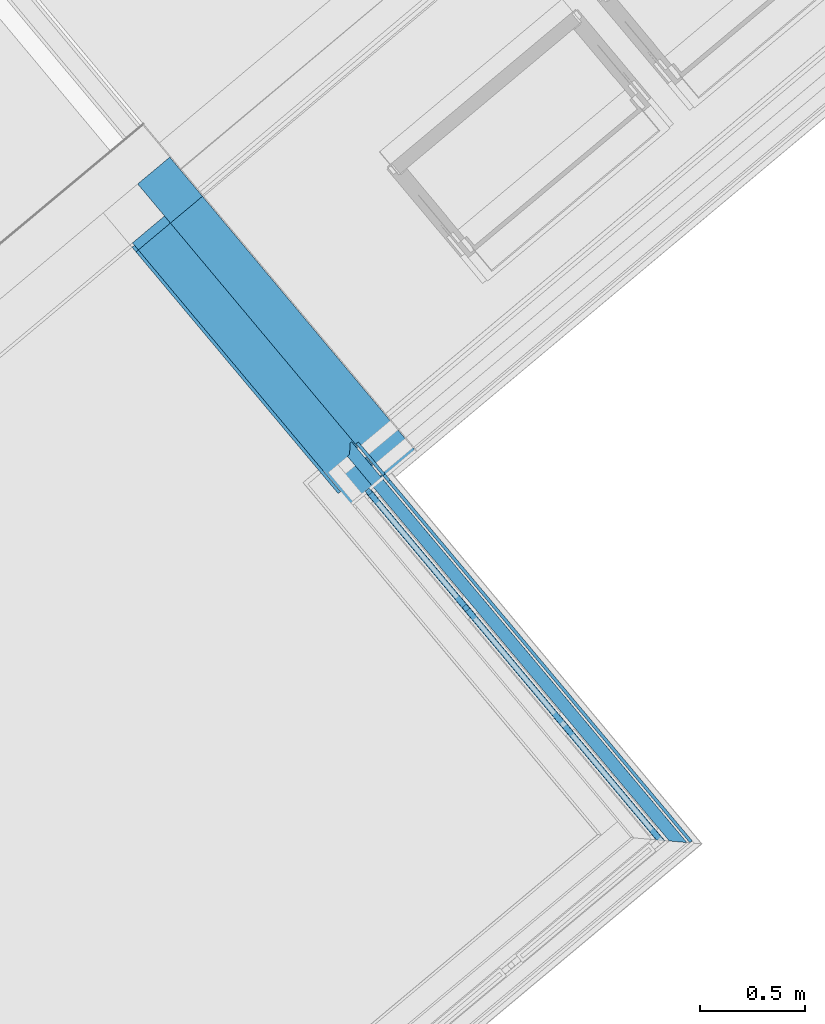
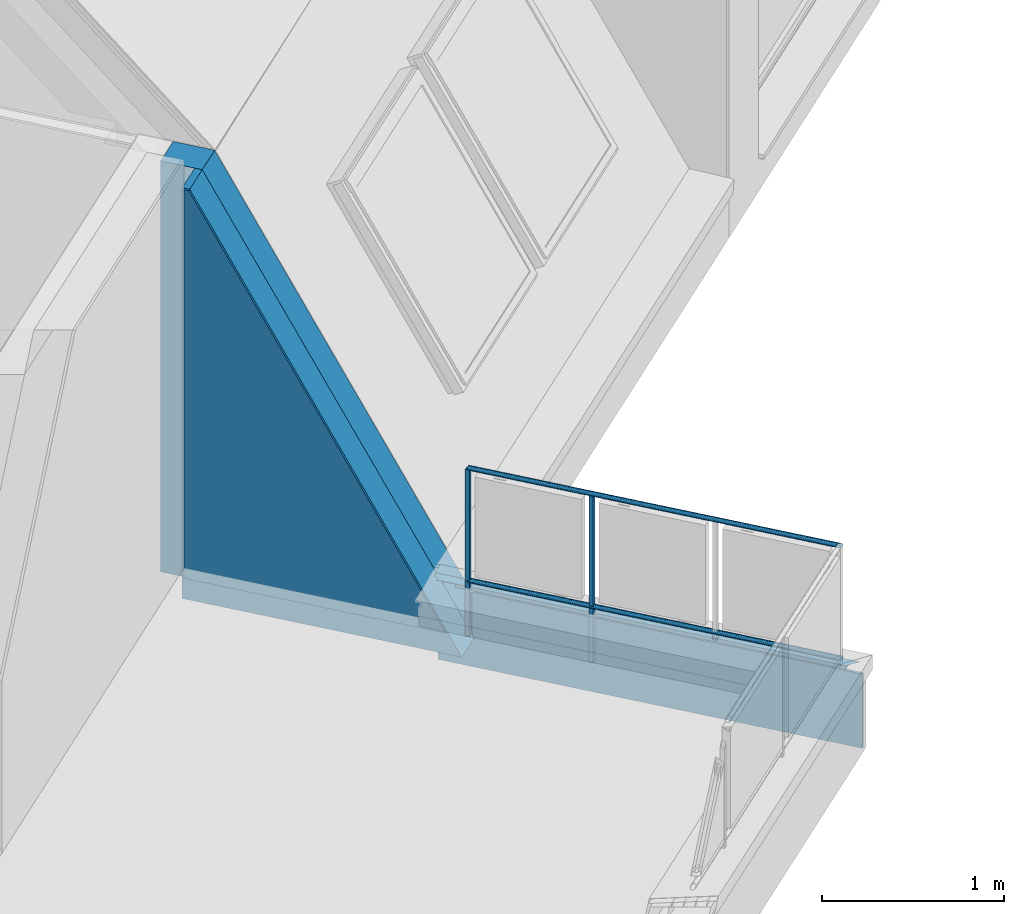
# One storey, part 23 of 61: 9 building element parts, 3 elements without a shape of their own.
"""IFC4 building model written with IfcOpenShell, lengths in metres."""

from ifc_helpers import new_model, entity, si_unit, converted_unit, derived_unit, direction, frame, origin_with_axes, place, context, subcontext, project, spatial, polygons, material, type_object, element, aggregate, save


model = new_model("IFC4")

# Units and contexts
model_context = context("Model", 3, precision=1e-05, world=origin_with_axes(), true_north=direction((0.0, 1.0)))
body_context = subcontext(model_context, "Body", "Model", "MODEL_VIEW")
ifc_project = project(units=[si_unit("LENGTHUNIT", "METRE"), si_unit("AREAUNIT", "SQUARE_METRE"), si_unit("VOLUMEUNIT", "CUBIC_METRE"), converted_unit("PLANEANGLEUNIT", "DEGREE", entity("IfcPlaneAngleMeasure", 0.0174532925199), si_unit("PLANEANGLEUNIT", "RADIAN"), dimensions=[0, 0, 0, 0, 0, 0, 0]), converted_unit("TIMEUNIT", "Year", entity("IfcTimeMeasure", 31556926.0), si_unit("TIMEUNIT", "SECOND"), dimensions=[0, 0, 1, 0, 0, 0, 0]), si_unit("MASSUNIT", "GRAM", prefix="KILO"), si_unit("THERMODYNAMICTEMPERATUREUNIT", "DEGREE_CELSIUS"), si_unit("LUMINOUSINTENSITYUNIT", "LUMEN"), si_unit("ENERGYUNIT", "JOULE", prefix="MEGA"), derived_unit("THERMALCONDUCTANCEUNIT", [(si_unit("POWERUNIT", "WATT"), 1), (si_unit("LENGTHUNIT", "METRE"), -1), (si_unit("THERMODYNAMICTEMPERATUREUNIT", "KELVIN"), -1)]), derived_unit("SPECIFICHEATCAPACITYUNIT", [(si_unit("ENERGYUNIT", "JOULE"), 1), (si_unit("MASSUNIT", "GRAM", prefix="KILO"), -1), (si_unit("THERMODYNAMICTEMPERATUREUNIT", "KELVIN"), -1)]), derived_unit("MASSDENSITYUNIT", [(si_unit("MASSUNIT", "GRAM", prefix="KILO"), 1), (si_unit("VOLUMEUNIT", "CUBIC_METRE"), -1)])], contexts=[model_context])

# Site, building, storey, space
site_placement = place(None, frame((-0.00153261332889, -0.00661245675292, 0.0), z_axis=(0.0, 0.0, 1.0), x_axis=(1.0, 0.0, 0.0)))
site = spatial("IfcSite", under=ifc_project, at=site_placement, Name="Gelände", CompositionType="ELEMENT")
building_placement = place(site_placement, origin_with_axes())
building = spatial("IfcBuilding", under=site, at=building_placement, Name="Gebäude", CompositionType="ELEMENT")
storey_placement = place(building_placement, frame((0.0, 0.0, 5.7), z_axis=(0.0, 0.0, 1.0), x_axis=(1.0, 0.0, 0.0)))
storey = spatial("IfcBuildingStorey", under=building, at=storey_placement, Name="DG1", CompositionType="ELEMENT", Elevation=5.7)
space_1_placement = place(storey_placement, frame((2.49953312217, 17.9744361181, 0.22), z_axis=(0.0, 0.0, 1.0), x_axis=(0.641209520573, -0.767365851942, 0.0)))
space_1 = spatial("IfcSpace", under=storey, at=space_1_placement, CompositionType="ELEMENT", PredefinedType="NOTDEFINED")

# Wall, building element parts
wall_type_1 = type_object("IfcWallType", Name="AW EG 420", PredefinedType="NOTDEFINED")
wall_1_placement = place(space_1_placement, frame((3.60353912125, -0.404634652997, -0.22), z_axis=(0.0, 0.0, 1.0), x_axis=(0.999999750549, 0.000706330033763, 0.0)))
wall_1 = element("IfcWall", 1, at=wall_1_placement, inside=space_1, type_object=wall_type_1, Name="Wand-002", PredefinedType="NOTDEFINED")
ifc_material_1 = material(Name="Stahlbeton Wand")
building_element_part_1_placement = place(wall_1_placement, origin_with_axes())
building_element_part_1 = element("IfcBuildingElementPart", 2, at=building_element_part_1_placement, material=ifc_material_1, Name="Stahlbeton Wand", PredefinedType="NOTDEFINED", context=body_context, shape_type="Tessellation", body=[
    polygons([(-0.214988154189, 0.215, 0.0), (-0.214988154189, 0.215, 2.76), (-0.214977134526, 0.415, 2.76), (-0.214977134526, 0.415, 2.57275084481), (-0.214988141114, 0.215237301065, 2.57276350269), (-0.214988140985, 0.215239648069, 2.36264000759), (-0.214977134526, 0.415, 2.36267415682), (-0.214977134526, 0.415, 0.0), (1.62250990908, 0.215, 0.0), (0.0290231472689, 0.215, 2.76), (0.0290539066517, 0.415, 2.76), (1.6225414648, 0.415, 0.0), (1.38005355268, 0.415, 0.0), (-0.138988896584, 0.415, 2.63105866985), (-0.13901863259, 0.215225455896, 2.63105695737), (1.38002279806, 0.215031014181, 0.0), (1.14908269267, 0.215065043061, 0.0), (1.14911344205, 0.415, 0.0)], [[[1, 2, 3, 4, 5, 6, 7, 8]], [[2, 1, 9, 10]], [[3, 2, 10, 11]], [[4, 3, 11, 12, 13, 14]], [[15, 5, 4, 14]], [[5, 15, 16, 17, 6]], [[6, 17, 18, 7]], [[18, 8, 7]], [[1, 8, 18, 17, 16, 13, 12, 9]], [[11, 10, 9, 12]], [[16, 15, 14, 13]]], closed=True),
])
ifc_material_2 = material(Name="EPS 1")
building_element_part_2_placement = place(wall_1_placement, origin_with_axes())
building_element_part_2 = element("IfcBuildingElementPart", 3, at=building_element_part_2_placement, material=ifc_material_2, Name="EPS 1", PredefinedType="NOTDEFINED", context=body_context, shape_type="Tessellation", body=[
    polygons([(-0.0149991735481, 0.015, 0.0), (-0.0149881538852, 0.215, 0.0), (1.62250990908, 0.215, 0.0), (1.6224791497, 0.015, 0.0), (-0.0149991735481, 0.015, 2.76), (-0.0149881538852, 0.215, 2.76), (0.0290231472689, 0.215, 2.76), (0.0289923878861, 0.015, 2.76)], [[[1, 2, 3, 4]], [[5, 6, 2, 1]], [[2, 6, 7, 3]], [[3, 7, 8, 4]], [[5, 1, 4, 8]], [[6, 5, 8, 7]]], closed=True),
])
ifc_material_3 = material(Name="Zementputz")
building_element_part_3_placement = place(wall_1_placement, origin_with_axes())
building_element_part_3 = element("IfcBuildingElementPart", 4, at=building_element_part_3_placement, material=ifc_material_3, Name="Zementputz", PredefinedType="NOTDEFINED", context=body_context, shape_type="Tessellation", body=[
    polygons([(0.0, 0.0, 2.76), (0.0, 0.0, 0.15), (1.53587430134, 0.0, 0.15), (0.0289900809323, 0.0, 2.76), (8.26474714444e-07, 0.015, 2.76), (8.26474714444e-07, 0.014999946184, 0.15), (1.53587660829, 0.0149999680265, 0.15), (0.0289923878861, 0.015, 2.76)], [[[1, 2, 3, 4]], [[5, 6, 2, 1]], [[2, 6, 7, 3]], [[3, 7, 8, 4]], [[5, 1, 4, 8]], [[7, 6, 5, 8]]], closed=True),
])
aggregate(wall_1, [building_element_part_1, building_element_part_2, building_element_part_3])

# Space
space_2_placement = place(storey_placement, frame((-1.65459986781, 9.80045444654, 0.22), z_axis=(0.0, 0.0, 1.0), x_axis=(0.640908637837, -0.767617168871, 0.0)))
space_2 = spatial("IfcSpace", under=storey, at=space_2_placement, CompositionType="ELEMENT", PredefinedType="NOTDEFINED")

# Wall, building element parts
wall_type_2 = type_object("IfcWallType", Name="Bauteil - Attika Balkon 356 x 610", PredefinedType="NOTDEFINED")
wall_2_placement = place(space_2_placement, frame((3.6878869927, 8.04651820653, -0.42), z_axis=(0.0, 0.0, 1.0), x_axis=(-0.999999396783, -0.00109837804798, 0.0)))
wall_2 = element("IfcWall", 5, at=wall_2_placement, inside=space_2, type_object=wall_type_2, Name="Wand-003", PredefinedType="NOTDEFINED")
ifc_material_4 = material(Name="Vollholz")
building_element_part_4_placement = place(wall_2_placement, origin_with_axes())
building_element_part_4 = element("IfcBuildingElementPart", 6, at=building_element_part_4_placement, material=ifc_material_4, Name="Vollholz", PredefinedType="NOTDEFINED", context=body_context, shape_type="Tessellation", body=[
    polygons([(2.26893600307, -0.130124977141, 0.581066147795), (2.26893600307, -0.190011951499, 0.581066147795), (2.20921896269, -0.1900119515, 0.581066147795), (2.20921896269, -0.130124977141, 0.581066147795), (2.26892533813, -0.130124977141, 0.584015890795), (2.26892354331, -0.14434046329, 0.58451230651), (2.26892354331, -0.189993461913, 0.58451230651), (2.30855126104, -0.189986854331, 0.585743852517), (2.30853999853, -0.189984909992, 0.586106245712), (-0.190096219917, -0.189984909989, 0.586106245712), (-0.130236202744, -0.189996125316, 0.584015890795), (-0.130236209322, -0.190007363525, 0.581921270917), (-0.130236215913, -0.190018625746, 0.57982217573), (-0.130236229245, -0.190041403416, 0.575576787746), (-0.13023627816, -0.190124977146, 0.560000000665), (2.15803567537, -0.190124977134, 0.560000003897), (2.15803567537, -0.19004140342, 0.575576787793), (2.15803567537, -0.190030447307, 0.577618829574), (2.15803567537, -0.190021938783, 0.579204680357), (2.15803567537, -0.190018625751, 0.57982217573), (2.15803567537, -0.190011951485, 0.581066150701), (2.15803567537, -0.130124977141, 0.581066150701), (2.15803567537, -0.130124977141, 0.575576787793), (2.15803567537, -0.130124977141, 0.560000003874), (-0.130201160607, -0.130124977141, 0.560000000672), (-0.130201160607, -0.130124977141, 0.575576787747), (-0.130201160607, -0.130124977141, 0.57982217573), (-0.130201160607, -0.130124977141, 0.581921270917), (-0.130201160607, -0.130124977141, 0.584015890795), (2.15803567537, -0.130124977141, 0.57982217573), (2.15803567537, -0.130124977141, 0.579204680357), (2.15803567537, -0.130124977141, 0.577618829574), (2.30855126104, -0.179607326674, 0.585743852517)], [[[1, 2, 3, 4]], [[2, 1, 5, 6, 7]], [[2, 7, 8, 9, 10, 11, 12, 13, 14, 15, 16, 17, 18, 19, 20, 21, 3]], [[22, 4, 3, 21]], [[23, 24, 25, 26, 27, 28, 29, 5, 1, 4, 22, 30, 31, 32]], [[6, 5, 29, 10, 9, 33]], [[7, 6, 33, 8]], [[8, 33, 9]], [[29, 11, 10]], [[29, 28, 12, 11]], [[28, 27, 13, 12]], [[27, 26, 14, 13]], [[26, 25, 15, 14]], [[25, 24, 16, 15]], [[24, 23, 17, 16]], [[23, 32, 18, 17]], [[32, 31, 19, 18]], [[31, 30, 20, 19]], [[30, 22, 21, 20]]], closed=True),
])
building_element_part_5_placement = place(wall_2_placement, origin_with_axes())
building_element_part_5 = element("IfcBuildingElementPart", 7, at=building_element_part_5_placement, material=ifc_material_3, Name="Zementputz", PredefinedType="NOTDEFINED", context=body_context, shape_type="Tessellation", body=[
    polygons([(2.05176382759, -0.214999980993, 0.498951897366), (2.0507455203, -0.214999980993, 0.499843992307), (2.05073521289, -0.214999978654, 0.499999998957), (-0.200125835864, -0.214999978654, 0.500000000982), (-0.200125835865, -0.214999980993, 0.498915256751), (-0.200125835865, -0.214999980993, 0.496604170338), (-0.200125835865, -0.214999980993, 0.334999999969), (-0.200125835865, -0.214999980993, 0.2), (-0.200125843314, -0.214999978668, 0.0), (2.28816065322, -0.214999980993, 0.0), (2.28816065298, -0.214999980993, 0.2), (2.08816069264, -0.214999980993, 0.2), (2.08816069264, -0.214999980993, 0.334999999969), (2.08816069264, -0.214999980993, 0.496604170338), (2.08816069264, -0.214999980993, 0.498915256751), (2.0881606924, -0.214999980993, 0.498951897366), (2.07316067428, -0.214999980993, 0.498951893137), (2.05176382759, -0.199999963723, 0.498951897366), (2.0507455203, -0.199999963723, 0.499843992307), (2.05073521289, -0.199999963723, 0.499999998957), (-0.200117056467, -0.199999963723, 0.500000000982), (-0.200117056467, -0.199999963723, 0.498915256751), (-0.200117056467, -0.199999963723, 0.496604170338), (-0.200117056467, -0.199999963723, 0.334999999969), (-0.200117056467, -0.19999996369, 0.2), (-0.200117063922, -0.199999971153, 0.0), (2.28816065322, -0.199999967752, 0.0), (2.28816065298, -0.199999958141, 0.2), (2.08816069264, -0.199999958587, 0.2), (2.08816069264, -0.199999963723, 0.334999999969), (2.08816069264, -0.199999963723, 0.496604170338), (2.08816069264, -0.199999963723, 0.498915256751), (2.0881606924, -0.199999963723, 0.498951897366), (2.07316067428, -0.199999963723, 0.498951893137)], [[[1, 2, 3, 4, 5, 6, 7, 8, 9, 10, 11, 12, 13, 14, 15, 16, 17]], [[2, 1, 18, 19]], [[20, 3, 2, 19]], [[3, 20, 21, 4]], [[5, 4, 21, 22]], [[5, 22, 23, 6]], [[6, 23, 24, 7]], [[7, 24, 25, 8]], [[8, 25, 26, 9]], [[9, 26, 27, 10]], [[28, 11, 10, 27]], [[12, 11, 28, 29]], [[30, 13, 12, 29]], [[31, 14, 13, 30]], [[32, 15, 14, 31]], [[33, 16, 15, 32]], [[34, 17, 16, 33]], [[18, 1, 17, 34]], [[19, 18, 34, 33, 32, 31, 30, 29, 25, 24, 23, 22, 21, 20]], [[29, 28, 27, 26, 25]]], closed=True),
])
aggregate(wall_2, [building_element_part_4, building_element_part_5])

# Railing, building element parts
railing_type = type_object("IfcRailingType", Name="Geländerart", PredefinedType="NOTDEFINED")
railing_placement = place(space_2_placement, frame((-0.0155551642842, 0.517171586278, 0.16), z_axis=(0.0, 0.0, 1.0), x_axis=(0.640908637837, 0.767617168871, 0.0)))
railing = element("IfcRailing", 8, at=railing_placement, inside=space_2, type_object=railing_type, Name="Geländer - 001", PredefinedType="NOTDEFINED")
ifc_material_5 = material(Name="Aluminium")
building_element_part_6_placement = place(railing_placement, origin_with_axes())
building_element_part_6 = element("IfcBuildingElementPart", 9, at=building_element_part_6_placement, material=ifc_material_5, Name="Aluminium", PredefinedType="NOTDEFINED", context=body_context, shape_type="Tessellation", body=[
    polygons([(6.90052373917, 3.6548543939, -0.3), (6.88135209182, 3.63880920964, -0.3), (6.88135209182, 3.63880920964, 0.82), (6.90052373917, 3.6548543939, 0.82), (6.91656892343, 3.63568274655, -0.3), (6.89739727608, 3.61963756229, -0.3), (6.89739727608, 3.61963756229, 0.82), (6.91656892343, 3.63568274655, 0.82)], [[[1, 2, 3, 4]], [[1, 5, 6, 2]], [[2, 6, 7, 3]], [[4, 3, 7, 8]], [[5, 1, 4, 8]], [[6, 5, 8, 7]]], closed=True),
])
building_element_part_7_placement = place(railing_placement, origin_with_axes())
building_element_part_7 = element("IfcBuildingElementPart", 10, at=building_element_part_7_placement, material=ifc_material_5, Name="Aluminium", PredefinedType="NOTDEFINED", context=body_context, shape_type="Tessellation", body=[
    polygons([(8.27374117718, 1.97121274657, 0.825), (8.27406230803, 1.97118410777, 0.827604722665), (6.88763227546, 3.62776512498, 0.827604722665), (6.88745751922, 3.62761886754, 0.825), (8.27406230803, 1.97118410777, 0.822395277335), (8.27501594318, 1.97109906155, 0.81986969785), (8.27657310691, 1.970960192, 0.8175), (8.27868648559, 1.9707717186, 0.815358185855), (8.28129186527, 1.97053936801, 0.813509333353), (8.28431008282, 1.9702702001, 0.812009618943), (8.28764943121, 1.96997239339, 0.810904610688), (8.29120844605, 1.96965499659, 0.810227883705), (8.29487898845, 1.96932765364, 0.81), (8.29854953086, 1.96900031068, 0.810227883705), (8.30210854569, 1.96868291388, 0.810904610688), (8.30544789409, 1.96838510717, 0.812009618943), (8.30846611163, 1.96811593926, 0.813509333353), (8.31107149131, 1.96788358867, 0.815358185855), (8.31318486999, 1.96769511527, 0.8175), (8.31474203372, 1.96755624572, 0.81986969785), (8.31569566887, 1.9674711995, 0.822395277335), (8.31601679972, 1.96744256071, 0.825), (8.31569566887, 1.9674711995, 0.827604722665), (8.31474203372, 1.96755624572, 0.83013030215), (8.31318486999, 1.96769511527, 0.8325), (8.31107149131, 1.96788358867, 0.834641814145), (8.30846611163, 1.96811593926, 0.836490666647), (8.30544789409, 1.96838510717, 0.837990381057), (8.30210854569, 1.96868291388, 0.839095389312), (8.29854953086, 1.96900031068, 0.839772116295), (8.29487898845, 1.96932765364, 0.84), (8.29120844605, 1.96965499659, 0.839772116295), (8.28764943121, 1.96997239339, 0.839095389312), (8.28431008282, 1.9702702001, 0.837990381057), (8.28129186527, 1.97053936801, 0.836490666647), (8.27868648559, 1.9707717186, 0.834641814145), (8.27657310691, 1.970960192, 0.8325), (8.27501594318, 1.97109906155, 0.83013030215), (6.8881512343, 3.62819945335, 0.83013030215), (6.88899862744, 3.62890865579, 0.8325), (6.89014870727, 3.62987118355, 0.834641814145), (6.8915665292, 3.63105779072, 0.836490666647), (6.89320901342, 3.63243242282, 0.837990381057), (6.89502625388, 3.63395331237, 0.839095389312), (6.89696303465, 3.63557424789, 0.839772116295), (6.89896050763, 3.6372459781, 0.84), (6.9009579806, 3.6389177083, 0.839772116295), (6.90289476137, 3.64053864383, 0.839095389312), (6.90471200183, 3.64205953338, 0.837990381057), (6.90635448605, 3.64343416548, 0.836490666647), (6.90777230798, 3.64462077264, 0.834641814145), (6.90892238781, 3.6455833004, 0.8325), (6.90976978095, 3.64629250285, 0.83013030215), (6.91028873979, 3.64672683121, 0.827604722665), (6.91046349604, 3.64687308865, 0.825), (6.91028873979, 3.64672683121, 0.822395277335), (6.90976978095, 3.64629250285, 0.81986969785), (6.90892238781, 3.6455833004, 0.8175), (6.90777230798, 3.64462077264, 0.815358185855), (6.90635448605, 3.64343416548, 0.813509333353), (6.90471200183, 3.64205953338, 0.812009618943), (6.90289476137, 3.64053864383, 0.810904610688), (6.9009579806, 3.6389177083, 0.810227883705), (6.89896050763, 3.6372459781, 0.81), (6.89696303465, 3.63557424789, 0.810227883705), (6.89502625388, 3.63395331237, 0.810904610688), (6.89320901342, 3.63243242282, 0.812009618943), (6.8915665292, 3.63105779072, 0.813509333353), (6.89014870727, 3.62987118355, 0.815358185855), (6.88899862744, 3.62890865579, 0.8175), (6.8881512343, 3.62819945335, 0.81986969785), (6.88763227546, 3.62776512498, 0.822395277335)], [[[1, 2, 3, 4]], [[1, 5, 6, 7, 8, 9, 10, 11, 12, 13, 14, 15, 16, 17, 18, 19, 20, 21, 22, 23, 24, 25, 26, 27, 28, 29, 30, 31, 32, 33, 34, 35, 36, 37, 38, 2]], [[2, 38, 39, 3]], [[4, 3, 39, 40, 41, 42, 43, 44, 45, 46, 47, 48, 49, 50, 51, 52, 53, 54, 55, 56, 57, 58, 59, 60, 61, 62, 63, 64, 65, 66, 67, 68, 69, 70, 71, 72]], [[5, 1, 4, 72]], [[6, 5, 72, 71]], [[7, 6, 71, 70]], [[8, 7, 70, 69]], [[9, 8, 69, 68]], [[10, 9, 68, 67]], [[11, 10, 67, 66]], [[12, 11, 66, 65]], [[13, 12, 65, 64]], [[14, 13, 64, 63]], [[15, 14, 63, 62]], [[16, 15, 62, 61]], [[17, 16, 61, 60]], [[18, 17, 60, 59]], [[19, 18, 59, 58]], [[20, 19, 58, 57]], [[21, 20, 57, 56]], [[22, 21, 56, 55]], [[23, 22, 55, 54]], [[24, 23, 54, 53]], [[25, 24, 53, 52]], [[26, 25, 52, 51]], [[27, 26, 51, 50]], [[28, 27, 50, 49]], [[29, 28, 49, 48]], [[30, 29, 48, 47]], [[31, 30, 47, 46]], [[32, 31, 46, 45]], [[33, 32, 45, 44]], [[34, 33, 44, 43]], [[35, 34, 43, 42]], [[36, 35, 42, 41]], [[37, 36, 41, 40]], [[38, 37, 40, 39]]], closed=True),
])
building_element_part_8_placement = place(railing_placement, origin_with_axes())
building_element_part_8 = element("IfcBuildingElementPart", 11, at=building_element_part_8_placement, material=ifc_material_5, Name="Aluminium", PredefinedType="NOTDEFINED", context=body_context, shape_type="Tessellation", body=[
    polygons([(8.27374117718, 1.97121274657, 0.07), (8.27406230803, 1.97118410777, 0.072604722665), (6.88763227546, 3.62776512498, 0.072604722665), (6.88745751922, 3.62761886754, 0.07), (8.27406230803, 1.97118410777, 0.067395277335), (8.27501594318, 1.97109906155, 0.0648696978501), (8.27657310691, 1.970960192, 0.0625), (8.27868648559, 1.9707717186, 0.0603581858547), (8.28129186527, 1.97053936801, 0.0585093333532), (8.28431008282, 1.9702702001, 0.0570096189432), (8.28764943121, 1.96997239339, 0.0559046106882), (8.29120844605, 1.96965499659, 0.0552278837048), (8.29487898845, 1.96932765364, 0.055), (8.29854953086, 1.96900031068, 0.0552278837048), (8.30210854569, 1.96868291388, 0.0559046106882), (8.30544789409, 1.96838510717, 0.0570096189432), (8.30846611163, 1.96811593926, 0.0585093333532), (8.31107149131, 1.96788358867, 0.0603581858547), (8.31318486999, 1.96769511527, 0.0625), (8.31474203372, 1.96755624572, 0.0648696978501), (8.31569566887, 1.9674711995, 0.067395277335), (8.31601679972, 1.96744256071, 0.07), (8.31569566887, 1.9674711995, 0.072604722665), (8.31474203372, 1.96755624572, 0.0751303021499), (8.31318486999, 1.96769511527, 0.0775), (8.31107149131, 1.96788358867, 0.0796418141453), (8.30846611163, 1.96811593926, 0.0814906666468), (8.30544789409, 1.96838510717, 0.0829903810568), (8.30210854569, 1.96868291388, 0.0840953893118), (8.29854953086, 1.96900031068, 0.0847721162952), (8.29487898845, 1.96932765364, 0.085), (8.29120844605, 1.96965499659, 0.0847721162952), (8.28764943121, 1.96997239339, 0.0840953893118), (8.28431008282, 1.9702702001, 0.0829903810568), (8.28129186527, 1.97053936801, 0.0814906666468), (8.27868648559, 1.9707717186, 0.0796418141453), (8.27657310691, 1.970960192, 0.0775), (8.27501594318, 1.97109906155, 0.0751303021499), (6.8881512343, 3.62819945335, 0.0751303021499), (6.88899862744, 3.62890865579, 0.0775), (6.89014870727, 3.62987118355, 0.0796418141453), (6.8915665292, 3.63105779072, 0.0814906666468), (6.89320901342, 3.63243242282, 0.0829903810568), (6.89502625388, 3.63395331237, 0.0840953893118), (6.89696303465, 3.63557424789, 0.0847721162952), (6.89896050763, 3.6372459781, 0.085), (6.9009579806, 3.6389177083, 0.0847721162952), (6.90289476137, 3.64053864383, 0.0840953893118), (6.90471200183, 3.64205953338, 0.0829903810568), (6.90635448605, 3.64343416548, 0.0814906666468), (6.90777230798, 3.64462077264, 0.0796418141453), (6.90892238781, 3.6455833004, 0.0775), (6.90976978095, 3.64629250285, 0.0751303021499), (6.91028873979, 3.64672683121, 0.072604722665), (6.91046349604, 3.64687308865, 0.07), (6.91028873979, 3.64672683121, 0.067395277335), (6.90976978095, 3.64629250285, 0.0648696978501), (6.90892238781, 3.6455833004, 0.0625), (6.90777230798, 3.64462077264, 0.0603581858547), (6.90635448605, 3.64343416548, 0.0585093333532), (6.90471200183, 3.64205953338, 0.0570096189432), (6.90289476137, 3.64053864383, 0.0559046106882), (6.9009579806, 3.6389177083, 0.0552278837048), (6.89896050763, 3.6372459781, 0.055), (6.89696303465, 3.63557424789, 0.0552278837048), (6.89502625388, 3.63395331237, 0.0559046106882), (6.89320901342, 3.63243242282, 0.0570096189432), (6.8915665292, 3.63105779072, 0.0585093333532), (6.89014870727, 3.62987118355, 0.0603581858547), (6.88899862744, 3.62890865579, 0.0625), (6.8881512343, 3.62819945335, 0.0648696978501), (6.88763227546, 3.62776512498, 0.067395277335)], [[[1, 2, 3, 4]], [[1, 5, 6, 7, 8, 9, 10, 11, 12, 13, 14, 15, 16, 17, 18, 19, 20, 21, 22, 23, 24, 25, 26, 27, 28, 29, 30, 31, 32, 33, 34, 35, 36, 37, 38, 2]], [[2, 38, 39, 3]], [[4, 3, 39, 40, 41, 42, 43, 44, 45, 46, 47, 48, 49, 50, 51, 52, 53, 54, 55, 56, 57, 58, 59, 60, 61, 62, 63, 64, 65, 66, 67, 68, 69, 70, 71, 72]], [[5, 1, 4, 72]], [[6, 5, 72, 71]], [[7, 6, 71, 70]], [[8, 7, 70, 69]], [[9, 8, 69, 68]], [[10, 9, 68, 67]], [[11, 10, 67, 66]], [[12, 11, 66, 65]], [[13, 12, 65, 64]], [[14, 13, 64, 63]], [[15, 14, 63, 62]], [[16, 15, 62, 61]], [[17, 16, 61, 60]], [[18, 17, 60, 59]], [[19, 18, 59, 58]], [[20, 19, 58, 57]], [[21, 20, 57, 56]], [[22, 21, 56, 55]], [[23, 22, 55, 54]], [[24, 23, 54, 53]], [[25, 24, 53, 52]], [[26, 25, 52, 51]], [[27, 26, 51, 50]], [[28, 27, 50, 49]], [[29, 28, 49, 48]], [[30, 29, 48, 47]], [[31, 30, 47, 46]], [[32, 31, 46, 45]], [[33, 32, 45, 44]], [[34, 33, 44, 43]], [[35, 34, 43, 42]], [[36, 35, 42, 41]], [[37, 36, 41, 40]], [[38, 37, 40, 39]]], closed=True),
])
building_element_part_9_placement = place(railing_placement, origin_with_axes())
building_element_part_9 = element("IfcBuildingElementPart", 12, at=building_element_part_9_placement, material=ifc_material_5, Name="Aluminium", PredefinedType="NOTDEFINED", context=body_context, shape_type="Tessellation", body=[
    polygons([(7.36582989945, 3.09888161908, -0.3), (7.3466582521, 3.08283643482, -0.3), (7.3466582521, 3.08283643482, 0.82), (7.36582989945, 3.09888161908, 0.82), (7.38187508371, 3.07970997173, -0.3), (7.36270343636, 3.06366478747, -0.3), (7.36270343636, 3.06366478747, 0.82), (7.38187508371, 3.07970997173, 0.82)], [[[1, 2, 3, 4]], [[1, 5, 6, 2]], [[2, 6, 7, 3]], [[4, 3, 7, 8]], [[5, 1, 4, 8]], [[6, 5, 8, 7]]], closed=True),
])
aggregate(railing, [building_element_part_6, building_element_part_7, building_element_part_8, building_element_part_9])

save(model, "model.ifc")
